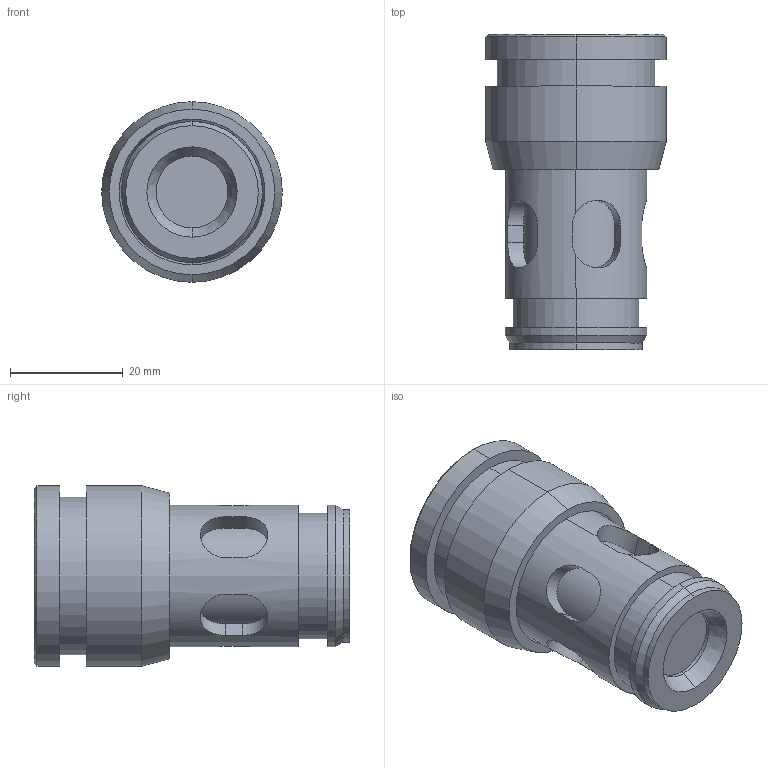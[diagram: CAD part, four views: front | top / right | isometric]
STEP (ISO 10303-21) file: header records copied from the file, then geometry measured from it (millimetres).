
FILE_DESCRIPTION (( 'STEP AP214' ), '1' );
FILE_NAME ('C.EN16-15.STEP', '2018-10-10T07:53:55', ( '' ), ( '' ), 'SwSTEP 2.0', 'SolidWorks 2016', '' );
FILE_SCHEMA (( 'AUTOMOTIVE_DESIGN' ));
Length unit declared in the file: millimetre
Products named in the file (2): C.EN16-15
Bounding box: 32 x 55.9 x 32 mm (x, y, z)
Volume: 28818.3 mm3; surface area: 11203.7 mm2
Topology: 2 solids, 2 shells, 80 faces, 175 edges, 112 vertices
Faces by surface type: cylinder 44, plane 24, cone 12
Entity records: 3799 total; most frequent: CARTESIAN_POINT 1085, DIRECTION 379, ORIENTED_EDGE 350, EDGE_CURVE 175, AXIS2_PLACEMENT_3D 148, VERTEX_POINT 112, EDGE_LOOP 95, UNCERTAINTY_MEASURE_WITH_UNIT 84
